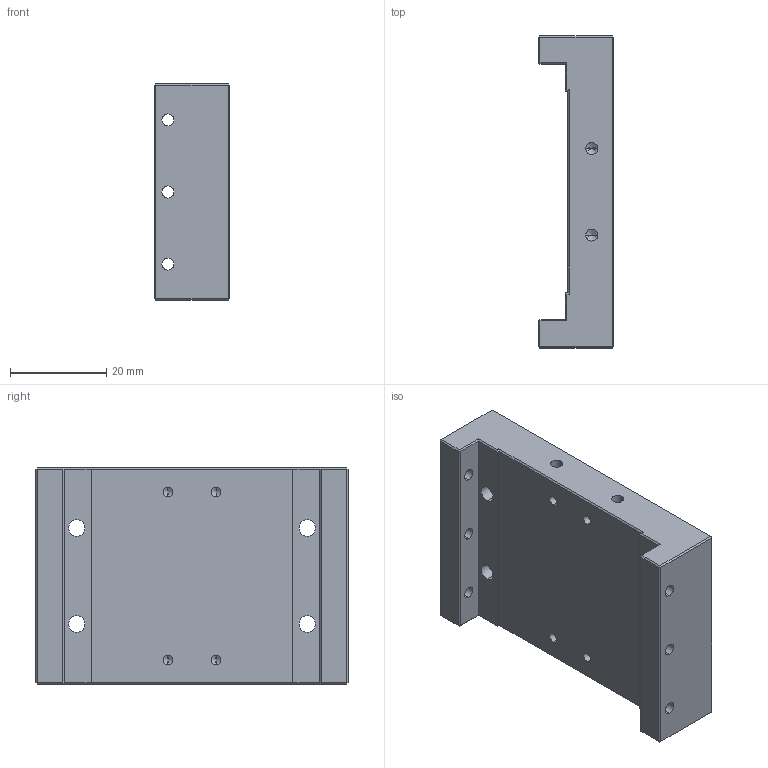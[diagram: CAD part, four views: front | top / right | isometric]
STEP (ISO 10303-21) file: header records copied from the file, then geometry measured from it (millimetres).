
FILE_DESCRIPTION (( 'STEP AP214' ), '1' );
FILE_NAME ('錨璃4.STEP', '2026-03-13T05:15:45', ( '' ), ( '' ), 'SwSTEP 2.0', 'SolidWorks 2024', '' );
FILE_SCHEMA (( 'AUTOMOTIVE_DESIGN' ));
Length unit declared in the file: millimetre
Products named in the file (1): 零件4
Bounding box: 15.6 x 65 x 45 mm (x, y, z)
Volume: 29850 mm3; surface area: 10610.4 mm2
Topology: 1 solids, 1 shells, 144 faces, 338 edges, 186 vertices
Faces by surface type: plane 60, cylinder 56, cone 28
Entity records: 3913 total; most frequent: DIRECTION 712, CARTESIAN_POINT 641, ORIENTED_EDGE 620, EDGE_CURVE 310, AXIS2_PLACEMENT_3D 257, LINE 198, VECTOR 198, VERTEX_POINT 186
